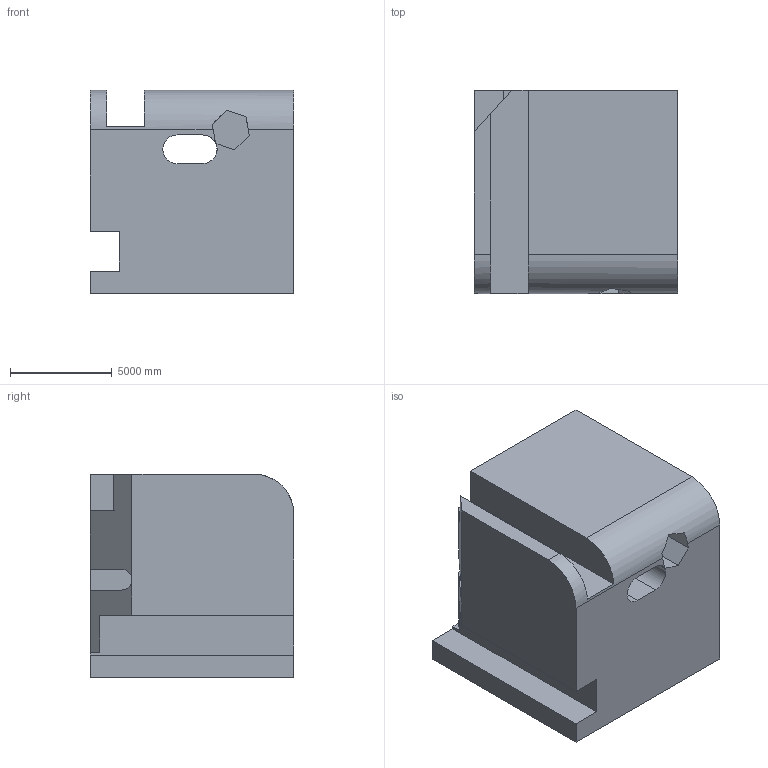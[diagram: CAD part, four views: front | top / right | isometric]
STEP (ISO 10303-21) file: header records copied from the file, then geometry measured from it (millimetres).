
FILE_DESCRIPTION (( 'STEP AP203' ), '1' );
FILE_NAME ('1739.STEP', '2022-08-19T12:15:31', ( 'user' ), ( '' ), 'SwSTEP 2.0', 'SolidWorks 2021', '' );
FILE_SCHEMA (( 'CONFIG_CONTROL_DESIGN' ));
Length unit declared in the file: centimetre
Products named in the file (1): 1739
Bounding box: 10000 x 10000 x 10000 mm (x, y, z)
Volume: 860382212324.6 mm3; surface area: 749084855 mm2
Topology: 1 solids, 1 shells, 37 faces, 104 edges, 69 vertices
Faces by surface type: plane 33, cylinder 4
Entity records: 1262 total; most frequent: CARTESIAN_POINT 229, ORIENTED_EDGE 208, DIRECTION 185, EDGE_CURVE 104, VECTOR 87, LINE 87, VERTEX_POINT 69, AXIS2_PLACEMENT_3D 49
